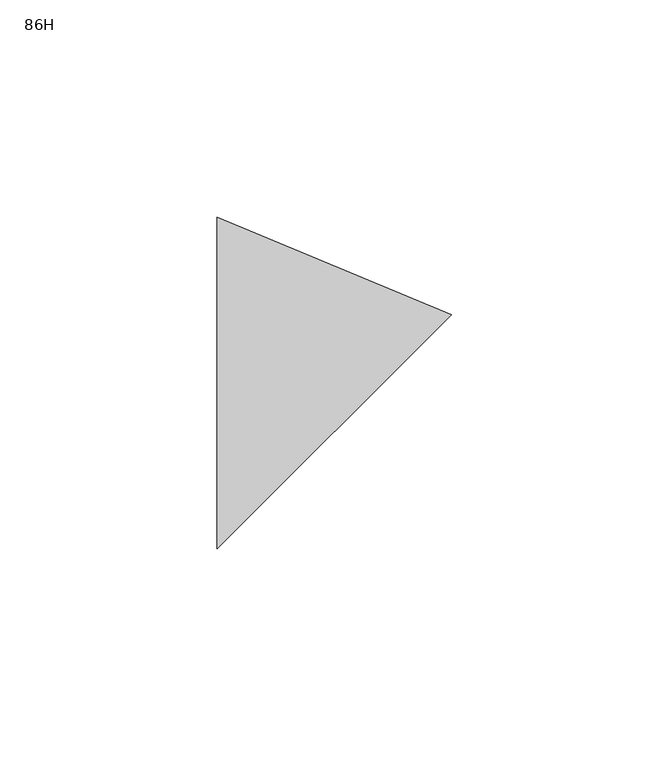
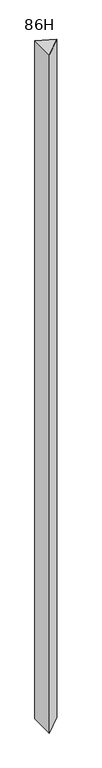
"""IFC4 building model written with IfcOpenShell, lengths in millimetres: furniture geometry, Steelcase - Montage - Junction - V - Same-Height : 86H."""

from ifc_helpers import new_model, si_unit, frame, origin, place, context, project, spatial, polyline, outline, extrude, source, transform, mapped, element, save


def furniture_86h_f72391fd(model_context):
    return source(origin(), model_context, "Body", "SweptSolid", [
        extrude(outline(polyline([(457.2, -38.1000015), (457.2, 38.1000015), (511.0815367, 15.7815352), (457.2, -38.1000015)])), frame((0.0, 0.0, 3.9624), z_axis=(0.0, 0.0, 1.0), x_axis=(1.0, 0.0, 0.0)), (0.0, 0.0, 1.0), 2180.4376),
    ])


if __name__ == "__main__":
    model = new_model("IFC4")
    model_context = context("Model", 3, world=origin())
    ifc_project = project(units=[si_unit("LENGTHUNIT", "METRE", prefix="MILLI")], contexts=[model_context])
    site = spatial("IfcSite", under=ifc_project)
    building = spatial("IfcBuilding", under=site)
    placement = place(None, origin())
    furniture_86h_shape = furniture_86h_f72391fd(model_context)
    element("IfcFurniture", 1, ObjectType="Steelcase - Montage - Junction - V - Same-Height : 86H", at=placement, inside=building, context=model_context, shape_type="MappedRepresentation", body=[
        mapped(furniture_86h_shape, transform((0.0, 0.0, 0.0), x_axis=(1.0, 0.0, 0.0), y_axis=(0.0, 1.0, 0.0), z_axis=(0.0, 0.0, 1.0))),
    ])
    save(model, "model.ifc")
